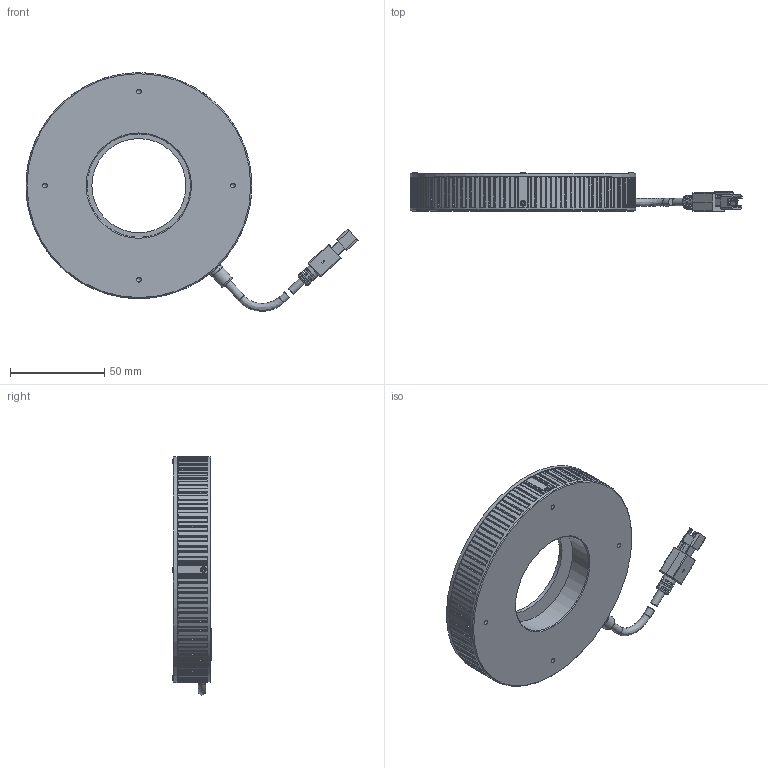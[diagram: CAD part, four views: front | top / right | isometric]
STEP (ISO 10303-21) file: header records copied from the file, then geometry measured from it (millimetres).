
FILE_DESCRIPTION (( 'STEP AP203' ), '1' );
FILE_NAME ('OPT-IRI12000-IR-V1.0U.STEP', '2025-02-15T01:25:42', ( '' ), ( '' ), 'SwSTEP 2.0', 'SolidWorks 2016', '' );
FILE_SCHEMA (( 'CONFIG_CONTROL_DESIGN' ));
Length unit declared in the file: millimetre
Products named in the file (1): OPT-IRI12000-IR-V1.0U
Bounding box: 176.5 x 20.85 x 126.76 mm (x, y, z)
Volume: 128940.4 mm3; surface area: 54152.9 mm2
Topology: 12 solids, 12 shells, 1069 faces, 2897 edges, 1876 vertices
Faces by surface type: plane 529, cylinder 409, cone 102, bspline 19, torus 6, sphere 4
Full cylindrical faces by diameter (mm): 1.1 x4, 1.4 x8, 1.6 x4, 1.8 x4, 2 x4, 2.2 x4, 2.5 x4, 2.6 x4, 3.5 x1, 4.1 x4, 5.8 x1, 7.5 x2, 8 x1, 50 x1, 55 x1, 57.8 x1, 112 x1, 120 x2
Entity records: 35299 total; most frequent: CARTESIAN_POINT 9590, ORIENTED_EDGE 5538, DIRECTION 4980, EDGE_CURVE 2769, VERTEX_POINT 1844, AXIS2_PLACEMENT_3D 1790, VECTOR 1400, LINE 1400
